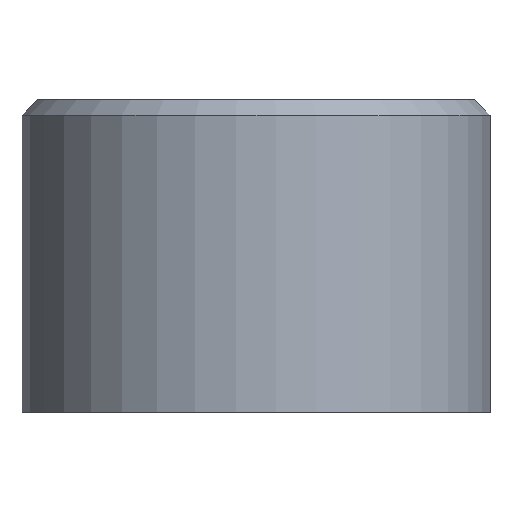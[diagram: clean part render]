
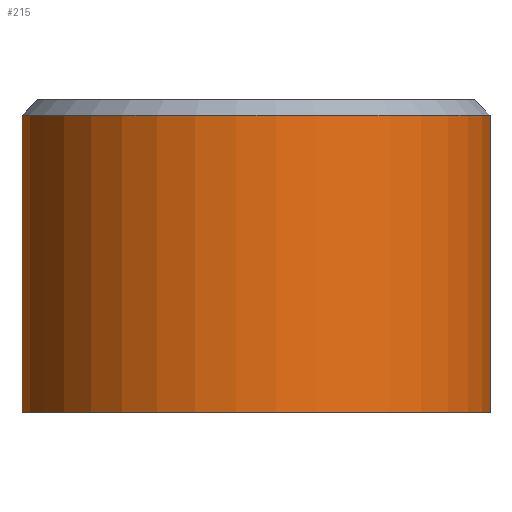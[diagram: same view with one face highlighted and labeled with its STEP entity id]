
A CAD part, left-side view. The second image highlights one B-rep face of the part: STEP entity #215.
In plain terms, the highlighted cylindrical face has radius 30 mm (diameter 60 mm), a partial arc.
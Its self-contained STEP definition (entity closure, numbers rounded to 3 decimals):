
#36=LINE('',#388,#52);
#38=LINE('',#395,#54);
#52=VECTOR('',#287,10.);
#54=VECTOR('',#295,10.);
#58=CYLINDRICAL_SURFACE('',#238,30.);
#70=FACE_OUTER_BOUND('',#83,.T.);
#83=EDGE_LOOP('',(#195,#196,#197,#198));
#93=CIRCLE('',#227,30.);
#97=CIRCLE('',#239,30.);
#106=VERTEX_POINT('',#362);
#109=VERTEX_POINT('',#367);
#113=VERTEX_POINT('',#386);
#115=VERTEX_POINT('',#394);
#129=EDGE_CURVE('',#109,#106,#93,.T.);
#139=EDGE_CURVE('',#113,#109,#36,.T.);
#142=EDGE_CURVE('',#115,#106,#38,.T.);
#144=EDGE_CURVE('',#113,#115,#97,.T.);
#195=ORIENTED_EDGE('',*,*,#129,.F.);
#196=ORIENTED_EDGE('',*,*,#139,.F.);
#197=ORIENTED_EDGE('',*,*,#144,.T.);
#198=ORIENTED_EDGE('',*,*,#142,.T.);
#215=ADVANCED_FACE('',(#70),#58,.T.);
#227=AXIS2_PLACEMENT_3D('',#369,#264,#265);
#238=AXIS2_PLACEMENT_3D('',#397,#297,#298);
#239=AXIS2_PLACEMENT_3D('',#398,#299,#300);
#264=DIRECTION('center_axis',(0.,0.,1.));
#265=DIRECTION('ref_axis',(-0.08,-0.997,0.));
#287=DIRECTION('',(0.,0.,1.));
#295=DIRECTION('',(0.,0.,1.));
#297=DIRECTION('center_axis',(0.,0.,1.));
#298=DIRECTION('ref_axis',(0.08,0.997,0.));
#299=DIRECTION('center_axis',(0.,0.,1.));
#300=DIRECTION('ref_axis',(0.08,0.997,0.));
#362=CARTESIAN_POINT('',(2.39,-29.905,38.));
#367=CARTESIAN_POINT('',(2.394,29.904,38.));
#369=CARTESIAN_POINT('Origin',(0.,0.,38.));
#386=CARTESIAN_POINT('',(2.394,29.904,0.));
#388=CARTESIAN_POINT('',(2.394,29.904,0.));
#394=CARTESIAN_POINT('',(2.39,-29.905,0.));
#395=CARTESIAN_POINT('',(2.39,-29.905,0.));
#397=CARTESIAN_POINT('Origin',(0.,0.,0.));
#398=CARTESIAN_POINT('Origin',(0.,0.,0.));
